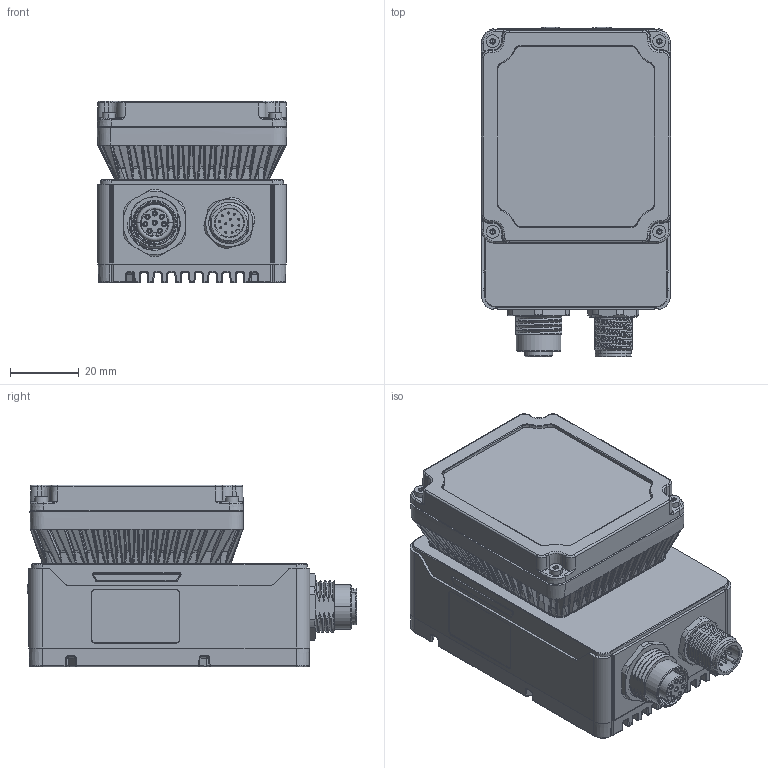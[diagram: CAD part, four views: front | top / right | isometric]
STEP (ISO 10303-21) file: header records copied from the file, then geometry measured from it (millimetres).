
FILE_DESCRIPTION((''),'2;1');
FILE_NAME('DH3-RD003980-6001_1_1','2023-11-28T19:27:00',('19499'),(''),'CREO PARAMETRIC BY PTC INC, 2020184','CREO PARAMETRIC BY PTC INC, 2020184','');
FILE_SCHEMA(('CONFIG_CONTROL_DESIGN','SHAPE_APPEARANCE_LAYERS_GROUPS'));
Products named in the file (1): DH3-RD003980-6001_1_1
Bounding box: 55.26 x 96.05 x 53 mm (x, y, z)
Volume: 199147.5 mm3; surface area: 36582.2 mm2
Topology: 2 solids, 51 shells, 3437 faces, 8575 edges, 5111 vertices
Faces by surface type: cylinder 1338, plane 827, bspline 586, cone 305, torus 209, sphere 170, extrusion 2
Entity records: 161556 total; most frequent: CARTESIAN_POINT 84981, ORIENTED_EDGE 16754, DIRECTION 14956, EDGE_CURVE 8377, AXIS2_PLACEMENT_3D 5946, VERTEX_POINT 5110, EDGE_LOOP 3629, FACE_OUTER_BOUND 3437
